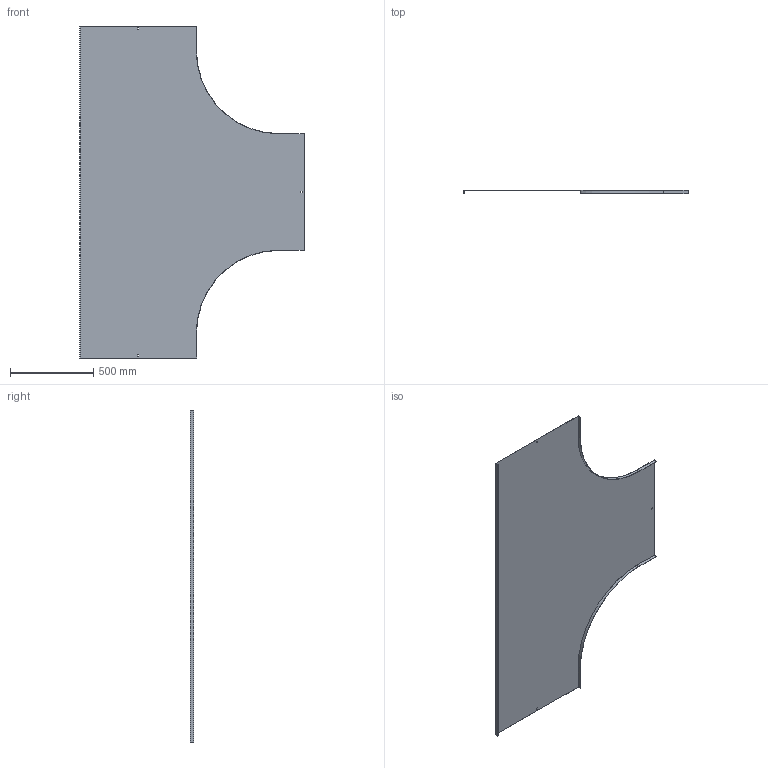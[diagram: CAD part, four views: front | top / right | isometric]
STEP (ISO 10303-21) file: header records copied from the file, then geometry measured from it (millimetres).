
FILE_DESCRIPTION (( 'STEP AP214' ), '1' );
FILE_NAME ('15N5R700.step', '2025-02-21T14:38:58', ( '' ), ( '' ), 'SwSTEP 2.0', 'SolidWorks 2023', '' );
FILE_SCHEMA (( 'AUTOMOTIVE_DESIGN' ));
Length unit declared in the file: millimetre
Products named in the file (1): 15N5R700
Bounding box: 1351.5 x 20 x 2000 mm (x, y, z)
Volume: 3068241.3 mm3; surface area: 4100707.1 mm2
Topology: 1 solids, 1 shells, 34 faces, 96 edges, 64 vertices
Faces by surface type: plane 30, cylinder 4
Entity records: 1123 total; most frequent: CARTESIAN_POINT 195, ORIENTED_EDGE 192, DIRECTION 174, EDGE_CURVE 96, VECTOR 88, LINE 88, VERTEX_POINT 64, AXIS2_PLACEMENT_3D 43
